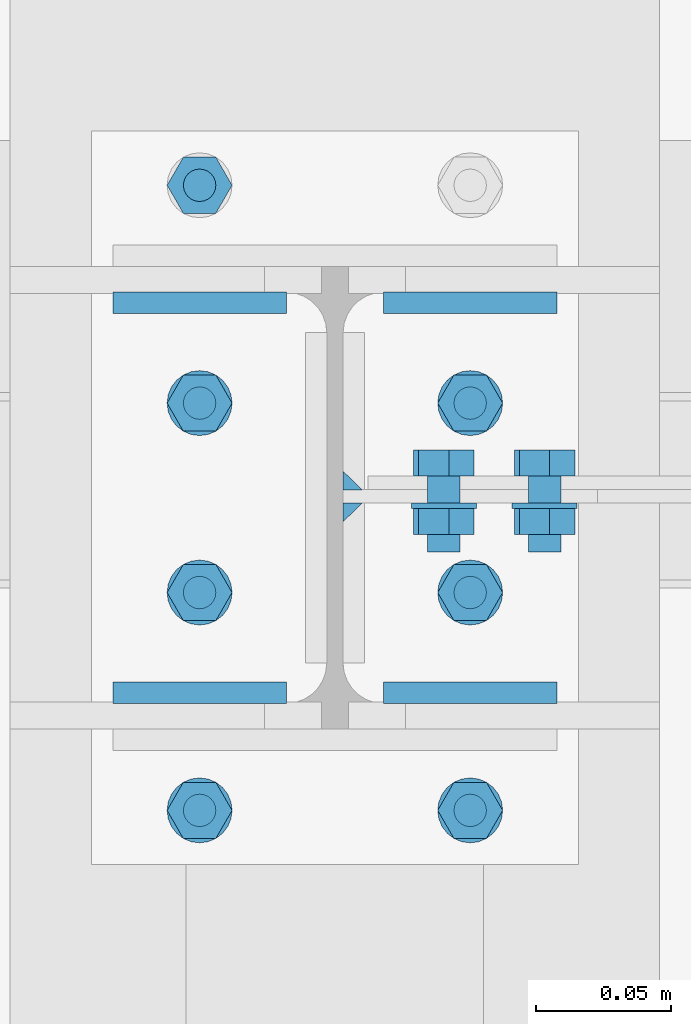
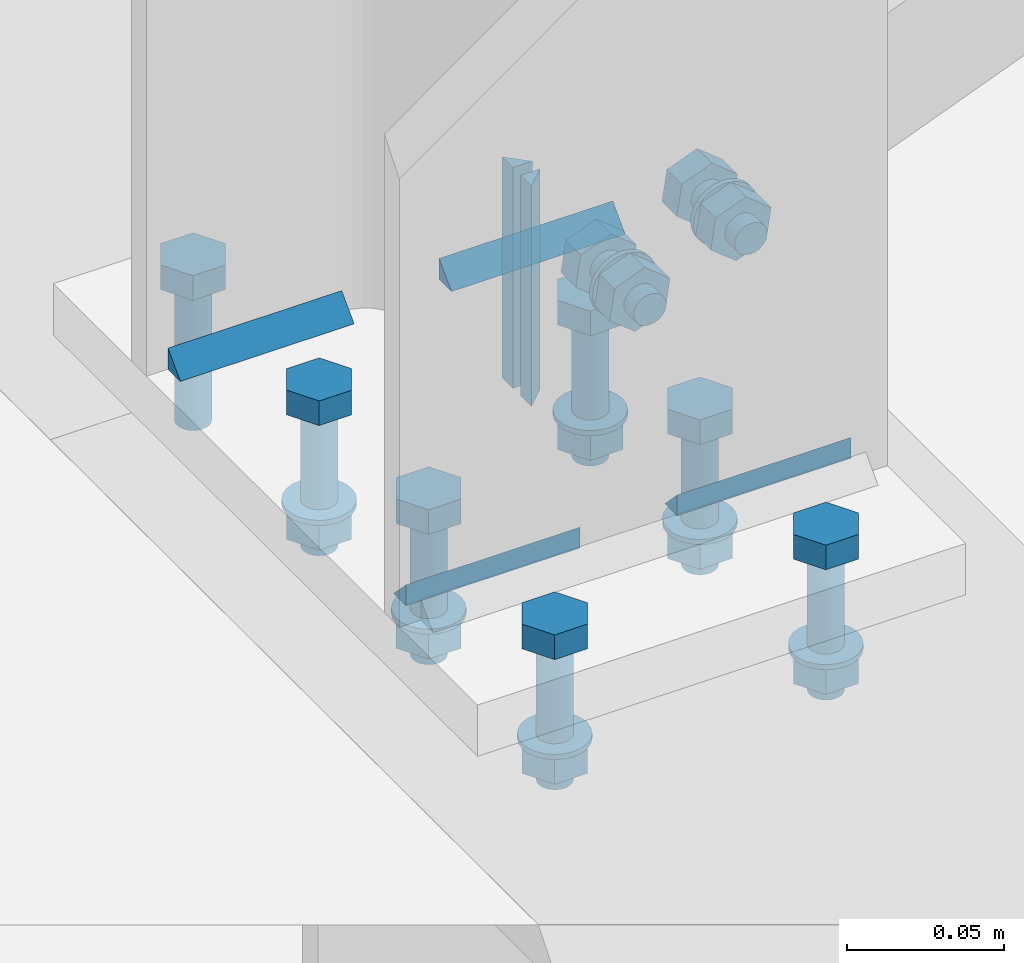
# One storey, part 59 of 66: 34 mechanical fasteners, 10 fasteners.
"""IFC4 building model written with IfcOpenShell, lengths in metres."""

from ifc_helpers import new_model, si_unit, frame, origin_with_axes, place, context, project, spatial, polyline, outline, extrude, type_object, element, save


model = new_model("IFC4")

# Units and contexts
model_context = context("Model", 3, precision=1e-05, world=origin_with_axes())
ifc_project = project(units=[si_unit("LENGTHUNIT", "METRE"), si_unit("AREAUNIT", "SQUARE_METRE"), si_unit("VOLUMEUNIT", "CUBIC_METRE"), si_unit("MASSUNIT", "GRAM", prefix="KILO"), si_unit("TIMEUNIT", "SECOND"), si_unit("PLANEANGLEUNIT", "RADIAN"), si_unit("SOLIDANGLEUNIT", "STERADIAN"), si_unit("THERMODYNAMICTEMPERATUREUNIT", "DEGREE_CELSIUS")], contexts=[model_context])

# Site, building, storey
placement_1 = place(None, origin_with_axes())
site = spatial("IfcSite", under=ifc_project, at=placement_1, Name="Italia", CompositionType="ELEMENT")
building = spatial("IfcBuilding", under=site, at=placement_1, Name="Uffici", CompositionType="ELEMENT")
storey_placement = place(None, frame((0.0, 0.0, 3.299999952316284), z_axis=(0.0, 0.0, 1.0), x_axis=(1.0, 0.0, 0.0)))
storey = spatial("IfcBuildingStorey", under=building, at=storey_placement, Name="Storey 1", CompositionType="ELEMENT", Elevation=3.299999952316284)

# Fasteners
fastener_type_1 = type_object("IfcFastenerType", Name="Collegamento 0109_0209", PredefinedType="WELD")
placement_2 = place(placement_1, origin_with_axes())
fastener_1_placement = place(placement_2, origin_with_axes())
element("IfcFastener", 1, at=fastener_1_placement, inside=storey, type_object=fastener_type_1, Name="Collegamento 0109_0209", context=model_context, shape_type="SweptSolid", body=[
    extrude(outline(polyline([(0.0, 0.0), (0.00792837, 0.00817347), (0.00792837, 0.0), (0.0, 0.0)])), frame((9.47295, 4.88262, 3.31995), z_axis=(1.0, 0.0, 0.0), x_axis=(0.0, 1.0, 0.0)), (0.0, 0.0, 1.0), 0.0641003),
])
fastener_type_2 = type_object("IfcFastenerType", Name="Collegamento 0109_0209", PredefinedType="WELD")
fastener_2_placement = place(placement_2, origin_with_axes())
element("IfcFastener", 2, at=fastener_2_placement, inside=storey, type_object=fastener_type_2, Name="Collegamento 0109_0209", context=model_context, shape_type="SweptSolid", body=[
    extrude(outline(polyline([(0.0, 0.0), (0.00792837, 0.00817347), (0.00792837, 0.0), (0.0, 0.0)])), frame((9.53705, 4.74638, 3.31995), z_axis=(-1.0, 0.0, 0.0), x_axis=(0.0, -1.0, 0.0)), (0.0, 0.0, 1.0), 0.0641003),
])
fastener_type_3 = type_object("IfcFastenerType", Name="Collegamento 0109_0209", PredefinedType="WELD")
fastener_3_placement = place(placement_2, origin_with_axes())
element("IfcFastener", 3, at=fastener_3_placement, inside=storey, type_object=fastener_type_3, Name="Collegamento 0109_0209", context=model_context, shape_type="SweptSolid", body=[
    extrude(outline(polyline([(0.0, 0.0), (0.00792837, 0.00817347), (0.00792837, 0.0), (0.0, 0.0)])), frame((9.43705, 4.74638, 3.31995), z_axis=(-1.0, 0.0, 0.0), x_axis=(0.0, -1.0, 0.0)), (0.0, 0.0, 1.0), 0.0641003),
])
fastener_type_4 = type_object("IfcFastenerType", Name="Collegamento 0109_0209", PredefinedType="WELD")
fastener_4_placement = place(placement_2, origin_with_axes())
element("IfcFastener", 4, at=fastener_4_placement, inside=storey, type_object=fastener_type_4, Name="Collegamento 0109_0209", context=model_context, shape_type="SweptSolid", body=[
    extrude(outline(polyline([(0.0, 0.0), (0.00792837, 0.00817347), (0.00792837, 0.0), (0.0, 0.0)])), frame((9.37295, 4.88262, 3.31995), z_axis=(1.0, 0.0, 0.0), x_axis=(0.0, 1.0, 0.0)), (0.0, 0.0, 1.0), 0.0641003),
])
fastener_type_5 = type_object("IfcFastenerType", Name="Collegamento 0109_0209", PredefinedType="WELD")
fastener_5_placement = place(placement_2, origin_with_axes())
element("IfcFastener", 5, at=fastener_5_placement, inside=storey, type_object=fastener_type_5, Name="Collegamento 0109_0209", context=model_context, shape_type="SweptSolid", body=[
    extrude(outline(polyline([(0.0, 0.0), (0.00792837, 0.00817347), (0.00792837, 0.0), (0.0, 0.0)])), frame((9.47295, 4.88262, 3.31995), z_axis=(1.0, 0.0, 0.0), x_axis=(0.0, 1.0, 0.0)), (0.0, 0.0, 1.0), 0.0641003),
])
fastener_type_6 = type_object("IfcFastenerType", Name="Collegamento 0109_0209", PredefinedType="WELD")
fastener_6_placement = place(placement_2, origin_with_axes())
element("IfcFastener", 6, at=fastener_6_placement, inside=storey, type_object=fastener_type_6, Name="Collegamento 0109_0209", context=model_context, shape_type="SweptSolid", body=[
    extrude(outline(polyline([(0.0, 0.0), (0.00792837, 0.00817347), (0.00792837, 0.0), (0.0, 0.0)])), frame((9.53705, 4.74638, 3.31995), z_axis=(-1.0, 0.0, 0.0), x_axis=(0.0, -1.0, 0.0)), (0.0, 0.0, 1.0), 0.0641003),
])
fastener_type_7 = type_object("IfcFastenerType", Name="Collegamento 0109_0209", PredefinedType="WELD")
fastener_7_placement = place(placement_2, origin_with_axes())
element("IfcFastener", 7, at=fastener_7_placement, inside=storey, type_object=fastener_type_7, Name="Collegamento 0109_0209", context=model_context, shape_type="SweptSolid", body=[
    extrude(outline(polyline([(0.0, 0.0), (0.00792837, 0.00817347), (0.00792837, 0.0), (0.0, 0.0)])), frame((9.43705, 4.74638, 3.31995), z_axis=(-1.0, 0.0, 0.0), x_axis=(0.0, -1.0, 0.0)), (0.0, 0.0, 1.0), 0.0641003),
])
fastener_type_8 = type_object("IfcFastenerType", Name="Collegamento 0109_0209", PredefinedType="WELD")
fastener_8_placement = place(placement_2, origin_with_axes())
element("IfcFastener", 8, at=fastener_8_placement, inside=storey, type_object=fastener_type_8, Name="Collegamento 0109_0209", context=model_context, shape_type="SweptSolid", body=[
    extrude(outline(polyline([(0.0, 0.0), (0.00792837, 0.00817347), (0.00792837, 0.0), (0.0, 0.0)])), frame((9.37295, 4.88262, 3.31995), z_axis=(1.0, 0.0, 0.0), x_axis=(0.0, 1.0, 0.0)), (0.0, 0.0, 1.0), 0.0641003),
])

# Mechanical fasteners
mechanical_fastener_type_1 = type_object("IfcMechanicalFastenerType", Name="Collegamento 0109_0209", PredefinedType="BOLT")
mechanical_fastener_1_placement = place(placement_2, origin_with_axes())
element("IfcMechanicalFastener", 9, at=mechanical_fastener_1_placement, inside=storey, type_object=mechanical_fastener_type_1, Name="Collegamento 0109_0209", NominalDiameter=0.0119997, context=model_context, shape_type="SweptSolid", body=[
    extrude(outline(polyline([(0.0, 0.0), (0.0, 0.0120001), (0.0103922, 0.0180006), (0.0207844, 0.0120001), (0.0207844, 0.0), (0.0103922, -0.00599957), (0.0, 0.0)])), frame((9.411, 4.91961, 3.32), z_axis=(0.0, 0.0, 1.0), x_axis=(0.0, 1.0, 0.0)), (0.0, 0.0, 1.0), 0.00959992),
])
mechanical_fastener_type_2 = type_object("IfcMechanicalFastenerType", Name="Collegamento 0109_0209", PredefinedType="BOLT")
mechanical_fastener_2_placement = place(placement_2, origin_with_axes())
element("IfcMechanicalFastener", 10, at=mechanical_fastener_2_placement, inside=storey, type_object=mechanical_fastener_type_2, Name="Collegamento 0109_0209", NominalDiameter=0.012, context=model_context, shape_type="SweptSolid", body=[
    extrude(outline(polyline([(0.0, 0.0), (-0.000204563, -0.00155258), (-0.000803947, -0.00300026), (-0.00175762, -0.0042429), (-0.00300026, -0.00519657), (-0.00444698, -0.00579548), (-0.00600004, -0.00599957), (-0.0075531, -0.00579548), (-0.00899982, -0.00519657), (-0.0102425, -0.0042429), (-0.0111961, -0.00300026), (-0.0117955, -0.00155258), (-0.0120001, 0.0), (-0.0117955, 0.00155258), (-0.0111961, 0.00300026), (-0.0102425, 0.0042429), (-0.00899982, 0.00519657), (-0.0075531, 0.00579548), (-0.00600004, 0.00599957), (-0.00444698, 0.00579548), (-0.00300026, 0.00519657), (-0.00175762, 0.0042429), (-0.000803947, 0.00300026), (-0.000204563, 0.00155258), (0.0, 0.0)])), frame((9.405, 4.936, 3.265), z_axis=(0.0, 0.0, 1.0), x_axis=(0.0, 1.0, 0.0)), (0.0, 0.0, 1.0), 0.0550001),
])
mechanical_fastener_type_3 = type_object("IfcMechanicalFastenerType", Name="Collegamento 0109_0209", PredefinedType="BOLT")
mechanical_fastener_3_placement = place(placement_2, origin_with_axes())
element("IfcMechanicalFastener", 11, at=mechanical_fastener_3_placement, inside=storey, type_object=mechanical_fastener_type_3, Name="Collegamento 0109_0209", NominalDiameter=0.0119997, context=model_context, shape_type="SweptSolid", body=[
    extrude(outline(polyline([(0.0, 0.0), (0.0, 0.0120001), (0.0103927, 0.0180006), (0.0207849, 0.0120001), (0.0207849, 0.0), (0.0103927, -0.00599957), (0.0, 0.0)])), frame((9.411, 4.76911, 3.32), z_axis=(0.0, 0.0, 1.0), x_axis=(0.0, 1.0, 0.0)), (0.0, 0.0, 1.0), 0.00959992),
])
mechanical_fastener_type_4 = type_object("IfcMechanicalFastenerType", Name="Collegamento 0109_0209", PredefinedType="BOLT")
mechanical_fastener_4_placement = place(placement_2, origin_with_axes())
element("IfcMechanicalFastener", 12, at=mechanical_fastener_4_placement, inside=storey, type_object=mechanical_fastener_type_4, Name="Collegamento 0109_0209", NominalDiameter=0.012, context=model_context, shape_type="SweptSolid", body=[
    extrude(outline(polyline([(0.0, 0.0), (-0.000204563, -0.00155258), (-0.000803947, -0.00300026), (-0.00175762, -0.0042429), (-0.00300026, -0.00519657), (-0.00444698, -0.00579548), (-0.00600004, -0.00599957), (-0.0075531, -0.00579548), (-0.00899982, -0.00519657), (-0.0102425, -0.0042429), (-0.0111961, -0.00300026), (-0.0117955, -0.00155258), (-0.0120001, 0.0), (-0.0117955, 0.00155258), (-0.0111961, 0.00300026), (-0.0102425, 0.0042429), (-0.00899982, 0.00519657), (-0.0075531, 0.00579548), (-0.00600004, 0.00599957), (-0.00444698, 0.00579548), (-0.00300026, 0.00519657), (-0.00175762, 0.0042429), (-0.000803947, 0.00300026), (-0.000204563, 0.00155258), (0.0, 0.0)])), frame((9.405, 4.7855, 3.265), z_axis=(0.0, 0.0, 1.0), x_axis=(0.0, 1.0, 0.0)), (0.0, 0.0, 1.0), 0.0550001),
])
mechanical_fastener_type_5 = type_object("IfcMechanicalFastenerType", Name="Collegamento 0109_0209", PredefinedType="BOLT")
mechanical_fastener_5_placement = place(placement_2, origin_with_axes())
element("IfcMechanicalFastener", 13, at=mechanical_fastener_5_placement, inside=storey, type_object=mechanical_fastener_type_5, Name="Collegamento 0109_0209", NominalDiameter=0.0119997, context=model_context, shape_type="SweptSolid", body=[
    extrude(outline(polyline([(0.0, 0.0), (0.0, 0.0120001), (0.0103927, 0.0180006), (0.0207849, 0.0120001), (0.0207849, 0.0), (0.0103927, -0.00599957), (0.0, 0.0)])), frame((9.411, 4.76911, 3.2714), z_axis=(0.0, 0.0, 1.0), x_axis=(0.0, 1.0, 0.0)), (0.0, 0.0, 1.0), 0.00959992),
])
mechanical_fastener_type_6 = type_object("IfcMechanicalFastenerType", Name="Collegamento 0109_0209", PredefinedType="BOLT")
mechanical_fastener_6_placement = place(placement_2, origin_with_axes())
element("IfcMechanicalFastener", 14, at=mechanical_fastener_6_placement, inside=storey, type_object=mechanical_fastener_type_6, Name="Collegamento 0109_0209", NominalDiameter=0.024, context=model_context, shape_type="SweptSolid", body=[
    extrude(outline(polyline([(0.0, 0.0), (-0.000409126, -0.00310612), (-0.00160789, -0.00599957), (-0.00351477, -0.00848484), (-0.00600004, -0.0103922), (-0.00889444, -0.011591), (-0.0120001, -0.0120001), (-0.0151057, -0.011591), (-0.0180001, -0.0103922), (-0.0204854, -0.00848484), (-0.0223923, -0.00599957), (-0.023591, -0.00310612), (-0.0240002, 0.0), (-0.023591, 0.00310612), (-0.0223923, 0.00599957), (-0.0204854, 0.00848484), (-0.0180001, 0.0103922), (-0.0151057, 0.011591), (-0.0120001, 0.0120001), (-0.00889444, 0.011591), (-0.00600004, 0.0103922), (-0.00351477, 0.00848484), (-0.00160789, 0.00599957), (-0.000409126, 0.00310612), (0.0, 0.0)])), frame((9.405, 4.7915, 3.281), z_axis=(0.0, 0.0, 1.0), x_axis=(0.0, 1.0, 0.0)), (0.0, 0.0, 1.0), 0.00200009),
])
mechanical_fastener_type_7 = type_object("IfcMechanicalFastenerType", Name="Collegamento 0109_0209", PredefinedType="BOLT")
mechanical_fastener_7_placement = place(placement_2, origin_with_axes())
element("IfcMechanicalFastener", 15, at=mechanical_fastener_7_placement, inside=storey, type_object=mechanical_fastener_type_7, Name="Collegamento 0109_0209", NominalDiameter=0.0119997, context=model_context, shape_type="SweptSolid", body=[
    extrude(outline(polyline([(0.0, 0.0), (0.0, 0.0120001), (0.0103927, 0.0179996), (0.0207849, 0.0120001), (0.0207849, 0.0), (0.0103927, -0.00600052), (0.0, 0.0)])), frame((9.511, 4.76911, 3.32), z_axis=(0.0, 0.0, 1.0), x_axis=(0.0, 1.0, 0.0)), (0.0, 0.0, 1.0), 0.00959992),
])
mechanical_fastener_type_8 = type_object("IfcMechanicalFastenerType", Name="Collegamento 0109_0209", PredefinedType="BOLT")
mechanical_fastener_8_placement = place(placement_2, origin_with_axes())
element("IfcMechanicalFastener", 16, at=mechanical_fastener_8_placement, inside=storey, type_object=mechanical_fastener_type_8, Name="Collegamento 0109_0209", NominalDiameter=0.012, context=model_context, shape_type="SweptSolid", body=[
    extrude(outline(polyline([(0.0, 0.0), (-0.000204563, -0.00155258), (-0.000803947, -0.00300026), (-0.00175762, -0.0042429), (-0.00300026, -0.00519657), (-0.00444698, -0.00579548), (-0.00600004, -0.00599957), (-0.0075531, -0.00579548), (-0.00899982, -0.00519657), (-0.0102425, -0.0042429), (-0.0111961, -0.00300026), (-0.0117955, -0.00155258), (-0.0120001, 0.0), (-0.0117955, 0.00155258), (-0.0111961, 0.00300026), (-0.0102425, 0.0042429), (-0.00899982, 0.00519657), (-0.0075531, 0.00579548), (-0.00600004, 0.00599957), (-0.00444698, 0.00579548), (-0.00300026, 0.00519657), (-0.00175762, 0.0042429), (-0.000803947, 0.00300026), (-0.000204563, 0.00155258), (0.0, 0.0)])), frame((9.505, 4.7855, 3.265), z_axis=(0.0, 0.0, 1.0), x_axis=(0.0, 1.0, 0.0)), (0.0, 0.0, 1.0), 0.0550001),
])
mechanical_fastener_type_9 = type_object("IfcMechanicalFastenerType", Name="Collegamento 0109_0209", PredefinedType="BOLT")
mechanical_fastener_9_placement = place(placement_2, origin_with_axes())
element("IfcMechanicalFastener", 17, at=mechanical_fastener_9_placement, inside=storey, type_object=mechanical_fastener_type_9, Name="Collegamento 0109_0209", NominalDiameter=0.0119997, context=model_context, shape_type="SweptSolid", body=[
    extrude(outline(polyline([(0.0, 0.0), (0.0, 0.0120001), (0.0103927, 0.0179996), (0.0207849, 0.0120001), (0.0207849, 0.0), (0.0103927, -0.00600052), (0.0, 0.0)])), frame((9.511, 4.76911, 3.2714), z_axis=(0.0, 0.0, 1.0), x_axis=(0.0, 1.0, 0.0)), (0.0, 0.0, 1.0), 0.00959992),
])
mechanical_fastener_type_10 = type_object("IfcMechanicalFastenerType", Name="Collegamento 0109_0209", PredefinedType="BOLT")
mechanical_fastener_10_placement = place(placement_2, origin_with_axes())
element("IfcMechanicalFastener", 18, at=mechanical_fastener_10_placement, inside=storey, type_object=mechanical_fastener_type_10, Name="Collegamento 0109_0209", NominalDiameter=0.024, context=model_context, shape_type="SweptSolid", body=[
    extrude(outline(polyline([(0.0, 0.0), (-0.000409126, -0.00310612), (-0.00160789, -0.00599957), (-0.00351477, -0.00848484), (-0.00600004, -0.0103922), (-0.00889444, -0.011591), (-0.0120001, -0.0120001), (-0.0151057, -0.011591), (-0.0180001, -0.0103922), (-0.0204854, -0.00848484), (-0.0223923, -0.00599957), (-0.023591, -0.00310612), (-0.0240002, 0.0), (-0.023591, 0.00310612), (-0.0223923, 0.00599957), (-0.0204854, 0.00848484), (-0.0180001, 0.0103922), (-0.0151057, 0.011591), (-0.0120001, 0.0120001), (-0.00889444, 0.011591), (-0.00600004, 0.0103922), (-0.00351477, 0.00848484), (-0.00160789, 0.00599957), (-0.000409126, 0.00310612), (0.0, 0.0)])), frame((9.505, 4.7915, 3.281), z_axis=(0.0, 0.0, 1.0), x_axis=(0.0, 1.0, 0.0)), (0.0, 0.0, 1.0), 0.00200009),
])
mechanical_fastener_type_11 = type_object("IfcMechanicalFastenerType", Name="Collegamento 0109_0209", PredefinedType="BOLT")
mechanical_fastener_11_placement = place(placement_2, origin_with_axes())
element("IfcMechanicalFastener", 19, at=mechanical_fastener_11_placement, inside=storey, type_object=mechanical_fastener_type_11, Name="Collegamento 0109_0209", NominalDiameter=0.0119997, context=model_context, shape_type="SweptSolid", body=[
    extrude(outline(polyline([(0.0, 0.0), (0.0, 0.0120001), (0.0103922, 0.0180006), (0.0207849, 0.0120001), (0.0207849, 0.0), (0.0103922, -0.00599957), (0.0, 0.0)])), frame((9.411, 4.83911, 3.32), z_axis=(0.0, 0.0, 1.0), x_axis=(0.0, 1.0, 0.0)), (0.0, 0.0, 1.0), 0.00959992),
])
mechanical_fastener_type_12 = type_object("IfcMechanicalFastenerType", Name="Collegamento 0109_0209", PredefinedType="BOLT")
mechanical_fastener_12_placement = place(placement_2, origin_with_axes())
element("IfcMechanicalFastener", 20, at=mechanical_fastener_12_placement, inside=storey, type_object=mechanical_fastener_type_12, Name="Collegamento 0109_0209", NominalDiameter=0.012, context=model_context, shape_type="SweptSolid", body=[
    extrude(outline(polyline([(0.0, 0.0), (-0.000204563, -0.00155258), (-0.000803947, -0.00300026), (-0.00175762, -0.0042429), (-0.00300026, -0.00519657), (-0.00444698, -0.00579548), (-0.00600004, -0.00599957), (-0.0075531, -0.00579548), (-0.00899982, -0.00519657), (-0.0102425, -0.0042429), (-0.0111961, -0.00300026), (-0.0117955, -0.00155258), (-0.0120001, 0.0), (-0.0117955, 0.00155258), (-0.0111961, 0.00300026), (-0.0102425, 0.0042429), (-0.00899982, 0.00519657), (-0.0075531, 0.00579548), (-0.00600004, 0.00599957), (-0.00444698, 0.00579548), (-0.00300026, 0.00519657), (-0.00175762, 0.0042429), (-0.000803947, 0.00300026), (-0.000204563, 0.00155258), (0.0, 0.0)])), frame((9.405, 4.8555, 3.265), z_axis=(0.0, 0.0, 1.0), x_axis=(0.0, 1.0, 0.0)), (0.0, 0.0, 1.0), 0.0550001),
])
mechanical_fastener_type_13 = type_object("IfcMechanicalFastenerType", Name="Collegamento 0109_0209", PredefinedType="BOLT")
mechanical_fastener_13_placement = place(placement_2, origin_with_axes())
element("IfcMechanicalFastener", 21, at=mechanical_fastener_13_placement, inside=storey, type_object=mechanical_fastener_type_13, Name="Collegamento 0109_0209", NominalDiameter=0.0119997, context=model_context, shape_type="SweptSolid", body=[
    extrude(outline(polyline([(0.0, 0.0), (0.0, 0.0120001), (0.0103922, 0.0180006), (0.0207849, 0.0120001), (0.0207849, 0.0), (0.0103922, -0.00599957), (0.0, 0.0)])), frame((9.411, 4.83911, 3.2714), z_axis=(0.0, 0.0, 1.0), x_axis=(0.0, 1.0, 0.0)), (0.0, 0.0, 1.0), 0.00959992),
])
mechanical_fastener_type_14 = type_object("IfcMechanicalFastenerType", Name="Collegamento 0109_0209", PredefinedType="BOLT")
mechanical_fastener_14_placement = place(placement_2, origin_with_axes())
element("IfcMechanicalFastener", 22, at=mechanical_fastener_14_placement, inside=storey, type_object=mechanical_fastener_type_14, Name="Collegamento 0109_0209", NominalDiameter=0.024, context=model_context, shape_type="SweptSolid", body=[
    extrude(outline(polyline([(0.0, 0.0), (-0.000409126, -0.00310612), (-0.00160789, -0.00599957), (-0.00351477, -0.00848484), (-0.00600004, -0.0103922), (-0.00889444, -0.011591), (-0.0120001, -0.0120001), (-0.0151057, -0.011591), (-0.0180001, -0.0103922), (-0.0204854, -0.00848484), (-0.0223923, -0.00599957), (-0.023591, -0.00310612), (-0.0240002, 0.0), (-0.023591, 0.00310612), (-0.0223923, 0.00599957), (-0.0204854, 0.00848484), (-0.0180001, 0.0103922), (-0.0151057, 0.011591), (-0.0120001, 0.0120001), (-0.00889444, 0.011591), (-0.00600004, 0.0103922), (-0.00351477, 0.00848484), (-0.00160789, 0.00599957), (-0.000409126, 0.00310612), (0.0, 0.0)])), frame((9.405, 4.8615, 3.281), z_axis=(0.0, 0.0, 1.0), x_axis=(0.0, 1.0, 0.0)), (0.0, 0.0, 1.0), 0.00200009),
])
mechanical_fastener_type_15 = type_object("IfcMechanicalFastenerType", Name="Collegamento 0109_0209", PredefinedType="BOLT")
mechanical_fastener_15_placement = place(placement_2, origin_with_axes())
element("IfcMechanicalFastener", 23, at=mechanical_fastener_15_placement, inside=storey, type_object=mechanical_fastener_type_15, Name="Collegamento 0109_0209", NominalDiameter=0.0119997, context=model_context, shape_type="SweptSolid", body=[
    extrude(outline(polyline([(0.0, 0.0), (0.0, 0.0120001), (0.0103922, 0.0179996), (0.0207849, 0.0120001), (0.0207849, 0.0), (0.0103922, -0.00600052), (0.0, 0.0)])), frame((9.511, 4.83911, 3.32), z_axis=(0.0, 0.0, 1.0), x_axis=(0.0, 1.0, 0.0)), (0.0, 0.0, 1.0), 0.00959992),
])
mechanical_fastener_type_16 = type_object("IfcMechanicalFastenerType", Name="Collegamento 0109_0209", PredefinedType="BOLT")
mechanical_fastener_16_placement = place(placement_2, origin_with_axes())
element("IfcMechanicalFastener", 24, at=mechanical_fastener_16_placement, inside=storey, type_object=mechanical_fastener_type_16, Name="Collegamento 0109_0209", NominalDiameter=0.012, context=model_context, shape_type="SweptSolid", body=[
    extrude(outline(polyline([(0.0, 0.0), (-0.000204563, -0.00155258), (-0.000803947, -0.00300026), (-0.00175762, -0.0042429), (-0.00300026, -0.00519657), (-0.00444698, -0.00579548), (-0.00600004, -0.00599957), (-0.0075531, -0.00579548), (-0.00899982, -0.00519657), (-0.0102425, -0.0042429), (-0.0111961, -0.00300026), (-0.0117955, -0.00155258), (-0.0120001, 0.0), (-0.0117955, 0.00155258), (-0.0111961, 0.00300026), (-0.0102425, 0.0042429), (-0.00899982, 0.00519657), (-0.0075531, 0.00579548), (-0.00600004, 0.00599957), (-0.00444698, 0.00579548), (-0.00300026, 0.00519657), (-0.00175762, 0.0042429), (-0.000803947, 0.00300026), (-0.000204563, 0.00155258), (0.0, 0.0)])), frame((9.505, 4.8555, 3.265), z_axis=(0.0, 0.0, 1.0), x_axis=(0.0, 1.0, 0.0)), (0.0, 0.0, 1.0), 0.0550001),
])
mechanical_fastener_type_17 = type_object("IfcMechanicalFastenerType", Name="Collegamento 0109_0209", PredefinedType="BOLT")
mechanical_fastener_17_placement = place(placement_2, origin_with_axes())
element("IfcMechanicalFastener", 25, at=mechanical_fastener_17_placement, inside=storey, type_object=mechanical_fastener_type_17, Name="Collegamento 0109_0209", NominalDiameter=0.0119997, context=model_context, shape_type="SweptSolid", body=[
    extrude(outline(polyline([(0.0, 0.0), (0.0, 0.0120001), (0.0103922, 0.0179996), (0.0207849, 0.0120001), (0.0207849, 0.0), (0.0103922, -0.00600052), (0.0, 0.0)])), frame((9.511, 4.83911, 3.2714), z_axis=(0.0, 0.0, 1.0), x_axis=(0.0, 1.0, 0.0)), (0.0, 0.0, 1.0), 0.00959992),
])
mechanical_fastener_type_18 = type_object("IfcMechanicalFastenerType", Name="Collegamento 0109_0209", PredefinedType="BOLT")
mechanical_fastener_18_placement = place(placement_2, origin_with_axes())
element("IfcMechanicalFastener", 26, at=mechanical_fastener_18_placement, inside=storey, type_object=mechanical_fastener_type_18, Name="Collegamento 0109_0209", NominalDiameter=0.024, context=model_context, shape_type="SweptSolid", body=[
    extrude(outline(polyline([(0.0, 0.0), (-0.000409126, -0.00310612), (-0.00160789, -0.00599957), (-0.00351477, -0.00848484), (-0.00600004, -0.0103922), (-0.00889444, -0.011591), (-0.0120001, -0.0120001), (-0.0151057, -0.011591), (-0.0180001, -0.0103922), (-0.0204854, -0.00848484), (-0.0223923, -0.00599957), (-0.023591, -0.00310612), (-0.0240002, 0.0), (-0.023591, 0.00310612), (-0.0223923, 0.00599957), (-0.0204854, 0.00848484), (-0.0180001, 0.0103922), (-0.0151057, 0.011591), (-0.0120001, 0.0120001), (-0.00889444, 0.011591), (-0.00600004, 0.0103922), (-0.00351477, 0.00848484), (-0.00160789, 0.00599957), (-0.000409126, 0.00310612), (0.0, 0.0)])), frame((9.505, 4.8615, 3.281), z_axis=(0.0, 0.0, 1.0), x_axis=(0.0, 1.0, 0.0)), (0.0, 0.0, 1.0), 0.00200009),
])
mechanical_fastener_type_19 = type_object("IfcMechanicalFastenerType", Name="Collegamento 0109_0209", PredefinedType="BOLT")
mechanical_fastener_19_placement = place(placement_2, origin_with_axes())
element("IfcMechanicalFastener", 27, at=mechanical_fastener_19_placement, inside=storey, type_object=mechanical_fastener_type_19, Name="Collegamento 0109_0209", NominalDiameter=0.0119997, context=model_context, shape_type="SweptSolid", body=[
    extrude(outline(polyline([(0.0, 0.0), (0.0, 0.0120001), (0.0103922, 0.0180006), (0.0207844, 0.0120001), (0.0207844, 0.0), (0.0103922, -0.00599957), (0.0, 0.0)])), frame((9.411, 4.68861, 3.32), z_axis=(0.0, 0.0, 1.0), x_axis=(0.0, 1.0, 0.0)), (0.0, 0.0, 1.0), 0.00959992),
])
mechanical_fastener_type_20 = type_object("IfcMechanicalFastenerType", Name="Collegamento 0109_0209", PredefinedType="BOLT")
mechanical_fastener_20_placement = place(placement_2, origin_with_axes())
element("IfcMechanicalFastener", 28, at=mechanical_fastener_20_placement, inside=storey, type_object=mechanical_fastener_type_20, Name="Collegamento 0109_0209", NominalDiameter=0.012, context=model_context, shape_type="SweptSolid", body=[
    extrude(outline(polyline([(0.0, 0.0), (-0.000204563, -0.00155258), (-0.000803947, -0.00300026), (-0.00175762, -0.0042429), (-0.00300026, -0.00519657), (-0.00444698, -0.00579548), (-0.00600004, -0.00599957), (-0.0075531, -0.00579548), (-0.00899982, -0.00519657), (-0.0102425, -0.0042429), (-0.0111961, -0.00300026), (-0.0117955, -0.00155258), (-0.0120001, 0.0), (-0.0117955, 0.00155258), (-0.0111961, 0.00300026), (-0.0102425, 0.0042429), (-0.00899982, 0.00519657), (-0.0075531, 0.00579548), (-0.00600004, 0.00599957), (-0.00444698, 0.00579548), (-0.00300026, 0.00519657), (-0.00175762, 0.0042429), (-0.000803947, 0.00300026), (-0.000204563, 0.00155258), (0.0, 0.0)])), frame((9.405, 4.705, 3.265), z_axis=(0.0, 0.0, 1.0), x_axis=(0.0, 1.0, 0.0)), (0.0, 0.0, 1.0), 0.0550001),
])
mechanical_fastener_type_21 = type_object("IfcMechanicalFastenerType", Name="Collegamento 0109_0209", PredefinedType="BOLT")
mechanical_fastener_21_placement = place(placement_2, origin_with_axes())
element("IfcMechanicalFastener", 29, at=mechanical_fastener_21_placement, inside=storey, type_object=mechanical_fastener_type_21, Name="Collegamento 0109_0209", NominalDiameter=0.0119997, context=model_context, shape_type="SweptSolid", body=[
    extrude(outline(polyline([(0.0, 0.0), (0.0, 0.0120001), (0.0103922, 0.0180006), (0.0207844, 0.0120001), (0.0207844, 0.0), (0.0103922, -0.00599957), (0.0, 0.0)])), frame((9.411, 4.68861, 3.2714), z_axis=(0.0, 0.0, 1.0), x_axis=(0.0, 1.0, 0.0)), (0.0, 0.0, 1.0), 0.00959992),
])
mechanical_fastener_type_22 = type_object("IfcMechanicalFastenerType", Name="Collegamento 0109_0209", PredefinedType="BOLT")
mechanical_fastener_22_placement = place(placement_2, origin_with_axes())
element("IfcMechanicalFastener", 30, at=mechanical_fastener_22_placement, inside=storey, type_object=mechanical_fastener_type_22, Name="Collegamento 0109_0209", NominalDiameter=0.024, context=model_context, shape_type="SweptSolid", body=[
    extrude(outline(polyline([(0.0, 0.0), (-0.000409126, -0.00310612), (-0.00160789, -0.00599957), (-0.00351477, -0.00848484), (-0.00600004, -0.0103922), (-0.00889444, -0.011591), (-0.0120001, -0.0120001), (-0.0151057, -0.011591), (-0.0180001, -0.0103922), (-0.0204854, -0.00848484), (-0.0223923, -0.00599957), (-0.023591, -0.00310612), (-0.0240002, 0.0), (-0.023591, 0.00310612), (-0.0223923, 0.00599957), (-0.0204854, 0.00848484), (-0.0180001, 0.0103922), (-0.0151057, 0.011591), (-0.0120001, 0.0120001), (-0.00889444, 0.011591), (-0.00600004, 0.0103922), (-0.00351477, 0.00848484), (-0.00160789, 0.00599957), (-0.000409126, 0.00310612), (0.0, 0.0)])), frame((9.405, 4.711, 3.281), z_axis=(0.0, 0.0, 1.0), x_axis=(0.0, 1.0, 0.0)), (0.0, 0.0, 1.0), 0.00200009),
])
mechanical_fastener_type_23 = type_object("IfcMechanicalFastenerType", Name="Collegamento 0109_0209", PredefinedType="BOLT")
mechanical_fastener_23_placement = place(placement_2, origin_with_axes())
element("IfcMechanicalFastener", 31, at=mechanical_fastener_23_placement, inside=storey, type_object=mechanical_fastener_type_23, Name="Collegamento 0109_0209", NominalDiameter=0.0119997, context=model_context, shape_type="SweptSolid", body=[
    extrude(outline(polyline([(0.0, 0.0), (0.0, 0.0120001), (0.0103922, 0.0179996), (0.0207844, 0.0120001), (0.0207844, 0.0), (0.0103922, -0.00600052), (0.0, 0.0)])), frame((9.511, 4.68861, 3.32), z_axis=(0.0, 0.0, 1.0), x_axis=(0.0, 1.0, 0.0)), (0.0, 0.0, 1.0), 0.00959992),
])
mechanical_fastener_type_24 = type_object("IfcMechanicalFastenerType", Name="Collegamento 0109_0209", PredefinedType="BOLT")
mechanical_fastener_24_placement = place(placement_2, origin_with_axes())
element("IfcMechanicalFastener", 32, at=mechanical_fastener_24_placement, inside=storey, type_object=mechanical_fastener_type_24, Name="Collegamento 0109_0209", NominalDiameter=0.012, context=model_context, shape_type="SweptSolid", body=[
    extrude(outline(polyline([(0.0, 0.0), (-0.000204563, -0.00155258), (-0.000803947, -0.00300026), (-0.00175762, -0.0042429), (-0.00300026, -0.00519657), (-0.00444698, -0.00579548), (-0.00600004, -0.00599957), (-0.0075531, -0.00579548), (-0.00899982, -0.00519657), (-0.0102425, -0.0042429), (-0.0111961, -0.00300026), (-0.0117955, -0.00155258), (-0.0120001, 0.0), (-0.0117955, 0.00155258), (-0.0111961, 0.00300026), (-0.0102425, 0.0042429), (-0.00899982, 0.00519657), (-0.0075531, 0.00579548), (-0.00600004, 0.00599957), (-0.00444698, 0.00579548), (-0.00300026, 0.00519657), (-0.00175762, 0.0042429), (-0.000803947, 0.00300026), (-0.000204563, 0.00155258), (0.0, 0.0)])), frame((9.505, 4.705, 3.265), z_axis=(0.0, 0.0, 1.0), x_axis=(0.0, 1.0, 0.0)), (0.0, 0.0, 1.0), 0.0550001),
])
mechanical_fastener_type_25 = type_object("IfcMechanicalFastenerType", Name="Collegamento 0109_0209", PredefinedType="BOLT")
mechanical_fastener_25_placement = place(placement_2, origin_with_axes())
element("IfcMechanicalFastener", 33, at=mechanical_fastener_25_placement, inside=storey, type_object=mechanical_fastener_type_25, Name="Collegamento 0109_0209", NominalDiameter=0.0119997, context=model_context, shape_type="SweptSolid", body=[
    extrude(outline(polyline([(0.0, 0.0), (0.0, 0.0120001), (0.0103922, 0.0179996), (0.0207844, 0.0120001), (0.0207844, 0.0), (0.0103922, -0.00600052), (0.0, 0.0)])), frame((9.511, 4.68861, 3.2714), z_axis=(0.0, 0.0, 1.0), x_axis=(0.0, 1.0, 0.0)), (0.0, 0.0, 1.0), 0.00959992),
])
mechanical_fastener_type_26 = type_object("IfcMechanicalFastenerType", Name="Collegamento 0109_0209", PredefinedType="BOLT")
mechanical_fastener_26_placement = place(placement_2, origin_with_axes())
element("IfcMechanicalFastener", 34, at=mechanical_fastener_26_placement, inside=storey, type_object=mechanical_fastener_type_26, Name="Collegamento 0109_0209", NominalDiameter=0.024, context=model_context, shape_type="SweptSolid", body=[
    extrude(outline(polyline([(0.0, 0.0), (-0.000409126, -0.00310612), (-0.00160789, -0.00599957), (-0.00351477, -0.00848484), (-0.00600004, -0.0103922), (-0.00889444, -0.011591), (-0.0120001, -0.0120001), (-0.0151057, -0.011591), (-0.0180001, -0.0103922), (-0.0204854, -0.00848484), (-0.0223923, -0.00599957), (-0.023591, -0.00310612), (-0.0240002, 0.0), (-0.023591, 0.00310612), (-0.0223923, 0.00599957), (-0.0204854, 0.00848484), (-0.0180001, 0.0103922), (-0.0151057, 0.011591), (-0.0120001, 0.0120001), (-0.00889444, 0.011591), (-0.00600004, 0.0103922), (-0.00351477, 0.00848484), (-0.00160789, 0.00599957), (-0.000409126, 0.00310612), (0.0, 0.0)])), frame((9.505, 4.711, 3.281), z_axis=(0.0, 0.0, 1.0), x_axis=(0.0, 1.0, 0.0)), (0.0, 0.0, 1.0), 0.00200009),
])
mechanical_fastener_type_27 = type_object("IfcMechanicalFastenerType", Name="Collegamento 0109_0210", PredefinedType="BOLT")
mechanical_fastener_27_placement = place(placement_2, origin_with_axes())
element("IfcMechanicalFastener", 35, at=mechanical_fastener_27_placement, inside=storey, type_object=mechanical_fastener_type_27, Name="Collegamento 0109_0210", NominalDiameter=0.0119999, context=model_context, shape_type="SweptSolid", body=[
    extrude(outline(polyline([(0.0, 0.0), (0.0111799, -0.0043602), (0.020546, 0.00314164), (0.0187321, 0.0150037), (0.00755215, 0.0193639), (-0.00181389, 0.011862), (0.0, 0.0)])), frame((9.50463, 4.8225, 3.35108), z_axis=(0.0, 1.0, 0.0), x_axis=(-1.0, 0.0, 0.0)), (0.0, 0.0, 1.0), 0.00960016),
])
mechanical_fastener_type_28 = type_object("IfcMechanicalFastenerType", Name="Collegamento 0109_0210", PredefinedType="BOLT")
mechanical_fastener_28_placement = place(placement_2, origin_with_axes())
element("IfcMechanicalFastener", 36, at=mechanical_fastener_28_placement, inside=storey, type_object=mechanical_fastener_type_28, Name="Collegamento 0109_0210", NominalDiameter=0.012, context=model_context, shape_type="SweptSolid", body=[
    extrude(outline(polyline([(0.0, 0.0), (-0.000204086, -0.00155282), (-0.000802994, -0.00300002), (-0.00175667, -0.00424266), (-0.00299931, -0.00519609), (-0.00444698, -0.00579548), (-0.00599957, -0.00600004), (-0.00755215, -0.00579548), (-0.00899982, -0.00519609), (-0.0102425, -0.00424266), (-0.0111961, -0.00300002), (-0.011795, -0.00155282), (-0.0119991, 0.0), (-0.011795, 0.00155282), (-0.0111961, 0.00300002), (-0.0102425, 0.00424266), (-0.00899982, 0.00519609), (-0.00755215, 0.00579548), (-0.00599957, 0.00600004), (-0.00444698, 0.00579548), (-0.00299931, 0.00519609), (-0.00175667, 0.00424266), (-0.000802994, 0.00300002), (-0.000204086, 0.00155282), (0.0, 0.0)])), frame((9.48927, 4.7945, 3.35858), z_axis=(0.0, 1.0, 0.0), x_axis=(-1.0, 0.0, 0.0)), (0.0, 0.0, 1.0), 0.0279999),
])
mechanical_fastener_type_29 = type_object("IfcMechanicalFastenerType", Name="Collegamento 0109_0210", PredefinedType="BOLT")
mechanical_fastener_29_placement = place(placement_2, origin_with_axes())
element("IfcMechanicalFastener", 37, at=mechanical_fastener_29_placement, inside=storey, type_object=mechanical_fastener_type_29, Name="Collegamento 0109_0210", NominalDiameter=0.0119999, context=model_context, shape_type="SweptSolid", body=[
    extrude(outline(polyline([(0.0, 0.0), (0.0111799, -0.0043602), (0.020546, 0.00314164), (0.0187321, 0.0150037), (0.00755215, 0.0193639), (-0.00181389, 0.011862), (0.0, 0.0)])), frame((9.50463, 4.8009, 3.35108), z_axis=(0.0, 1.0, 0.0), x_axis=(-1.0, 0.0, 0.0)), (0.0, 0.0, 1.0), 0.00960016),
])
mechanical_fastener_type_30 = type_object("IfcMechanicalFastenerType", Name="Collegamento 0109_0210", PredefinedType="BOLT")
mechanical_fastener_30_placement = place(placement_2, origin_with_axes())
element("IfcMechanicalFastener", 38, at=mechanical_fastener_30_placement, inside=storey, type_object=mechanical_fastener_type_30, Name="Collegamento 0109_0210", NominalDiameter=0.024, context=model_context, shape_type="SweptSolid", body=[
    extrude(outline(polyline([(0.0, 0.0), (-0.000409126, -0.00310588), (-0.00160789, -0.00600004), (-0.00351524, -0.00848532), (-0.00600052, -0.0103922), (-0.00889397, -0.0115912), (-0.0120001, -0.0120001), (-0.0151062, -0.0115912), (-0.0179996, -0.0103922), (-0.0204849, -0.00848532), (-0.0223923, -0.00600004), (-0.023591, -0.00310588), (-0.0240002, 0.0), (-0.023591, 0.00310588), (-0.0223923, 0.00600004), (-0.0204849, 0.00848532), (-0.0179996, 0.0103922), (-0.0151062, 0.0115912), (-0.0120001, 0.0120001), (-0.00889397, 0.0115912), (-0.00600052, 0.0103922), (-0.00351524, 0.00848532), (-0.00160789, 0.00600004), (-0.000409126, 0.00310588), (0.0, 0.0)])), frame((9.48327, 4.8105, 3.35858), z_axis=(0.0, 1.0, 0.0), x_axis=(-1.0, 0.0, 0.0)), (0.0, 0.0, 1.0), 0.00199986),
])
mechanical_fastener_type_31 = type_object("IfcMechanicalFastenerType", Name="Collegamento 0109_0210", PredefinedType="BOLT")
mechanical_fastener_31_placement = place(placement_2, origin_with_axes())
element("IfcMechanicalFastener", 39, at=mechanical_fastener_31_placement, inside=storey, type_object=mechanical_fastener_type_31, Name="Collegamento 0109_0210", NominalDiameter=0.0119999, context=model_context, shape_type="SweptSolid", body=[
    extrude(outline(polyline([(0.0, 0.0), (0.0111799, -0.00436044), (0.020546, 0.0031414), (0.0187321, 0.0150034), (0.00755215, 0.0193639), (-0.00181389, 0.011862), (0.0, 0.0)])), frame((9.5419, 4.8225, 3.36561), z_axis=(0.0, 1.0, 0.0), x_axis=(-1.0, 0.0, 0.0)), (0.0, 0.0, 1.0), 0.00960016),
])
mechanical_fastener_type_32 = type_object("IfcMechanicalFastenerType", Name="Collegamento 0109_0210", PredefinedType="BOLT")
mechanical_fastener_32_placement = place(placement_2, origin_with_axes())
element("IfcMechanicalFastener", 40, at=mechanical_fastener_32_placement, inside=storey, type_object=mechanical_fastener_type_32, Name="Collegamento 0109_0210", NominalDiameter=0.012, context=model_context, shape_type="SweptSolid", body=[
    extrude(outline(polyline([(0.0, 0.0), (-0.000204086, -0.00155282), (-0.000802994, -0.00300002), (-0.00175667, -0.00424266), (-0.00299931, -0.00519609), (-0.00444698, -0.00579548), (-0.00599957, -0.00600004), (-0.00755215, -0.00579548), (-0.00899982, -0.00519609), (-0.0102425, -0.00424266), (-0.0111961, -0.00300002), (-0.011795, -0.00155282), (-0.0119991, 0.0), (-0.011795, 0.00155282), (-0.0111961, 0.00300002), (-0.0102425, 0.00424266), (-0.00899982, 0.00519609), (-0.00755215, 0.00579548), (-0.00599957, 0.00600004), (-0.00444698, 0.00579548), (-0.00299931, 0.00519609), (-0.00175667, 0.00424266), (-0.000802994, 0.00300002), (-0.000204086, 0.00155282), (0.0, 0.0)])), frame((9.52654, 4.7945, 3.37312), z_axis=(0.0, 1.0, 0.0), x_axis=(-1.0, 0.0, 0.0)), (0.0, 0.0, 1.0), 0.0279999),
])
mechanical_fastener_type_33 = type_object("IfcMechanicalFastenerType", Name="Collegamento 0109_0210", PredefinedType="BOLT")
mechanical_fastener_33_placement = place(placement_2, origin_with_axes())
element("IfcMechanicalFastener", 41, at=mechanical_fastener_33_placement, inside=storey, type_object=mechanical_fastener_type_33, Name="Collegamento 0109_0210", NominalDiameter=0.0119999, context=model_context, shape_type="SweptSolid", body=[
    extrude(outline(polyline([(0.0, 0.0), (0.0111799, -0.00436044), (0.020546, 0.0031414), (0.0187321, 0.0150034), (0.00755215, 0.0193639), (-0.00181389, 0.011862), (0.0, 0.0)])), frame((9.5419, 4.8009, 3.36561), z_axis=(0.0, 1.0, 0.0), x_axis=(-1.0, 0.0, 0.0)), (0.0, 0.0, 1.0), 0.00960016),
])
mechanical_fastener_type_34 = type_object("IfcMechanicalFastenerType", Name="Collegamento 0109_0210", PredefinedType="BOLT")
mechanical_fastener_34_placement = place(placement_2, origin_with_axes())
element("IfcMechanicalFastener", 42, at=mechanical_fastener_34_placement, inside=storey, type_object=mechanical_fastener_type_34, Name="Collegamento 0109_0210", NominalDiameter=0.024, context=model_context, shape_type="SweptSolid", body=[
    extrude(outline(polyline([(0.0, 0.0), (-0.000409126, -0.00310588), (-0.00160789, -0.00600004), (-0.00351524, -0.00848532), (-0.00600052, -0.0103922), (-0.00889397, -0.0115912), (-0.0120001, -0.0120001), (-0.0151062, -0.0115912), (-0.0179996, -0.0103922), (-0.0204849, -0.00848532), (-0.0223923, -0.00600004), (-0.023591, -0.00310588), (-0.0240002, 0.0), (-0.023591, 0.00310588), (-0.0223923, 0.00600004), (-0.0204849, 0.00848532), (-0.0179996, 0.0103922), (-0.0151062, 0.0115912), (-0.0120001, 0.0120001), (-0.00889397, 0.0115912), (-0.00600052, 0.0103922), (-0.00351524, 0.00848532), (-0.00160789, 0.00600004), (-0.000409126, 0.00310588), (0.0, 0.0)])), frame((9.52053, 4.8105, 3.37312), z_axis=(0.0, 1.0, 0.0), x_axis=(-1.0, 0.0, 0.0)), (0.0, 0.0, 1.0), 0.00199986),
])

# Fasteners
fastener_type_9 = type_object("IfcFastenerType", Name="Collegamento 0109_0210", PredefinedType="WELD")
fastener_9_placement = place(placement_2, origin_with_axes())
element("IfcFastener", 43, at=fastener_9_placement, inside=storey, type_object=fastener_type_9, Name="Collegamento 0109_0210", context=model_context, shape_type="SweptSolid", body=[
    extrude(outline(polyline([(0.0, 0.0), (0.00695801, 0.00717258), (0.00695801, 0.0), (0.0, 0.0)])), frame((9.45795, 4.80559, 3.4131), z_axis=(0.0, 0.0, -1.0), x_axis=(0.0, 1.0, 0.0)), (0.0, 0.0, 1.0), 0.0861001),
])
fastener_type_10 = type_object("IfcFastenerType", Name="Collegamento 0109_0210", PredefinedType="WELD")
fastener_10_placement = place(placement_2, origin_with_axes())
element("IfcFastener", 44, at=fastener_10_placement, inside=storey, type_object=fastener_type_10, Name="Collegamento 0109_0210", context=model_context, shape_type="SweptSolid", body=[
    extrude(outline(polyline([(0.0, 0.0), (-0.00695801, -0.00717258), (-0.00695801, 0.0), (0.0, 0.0)])), frame((9.45795, 4.82441, 3.327), z_axis=(0.0, 0.0, 1.0), x_axis=(0.0, 1.0, 0.0)), (0.0, 0.0, 1.0), 0.0861001),
])

save(model, "model.ifc")
